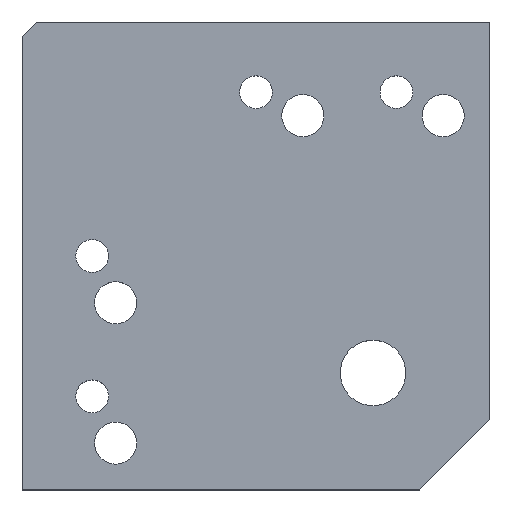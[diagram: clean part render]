
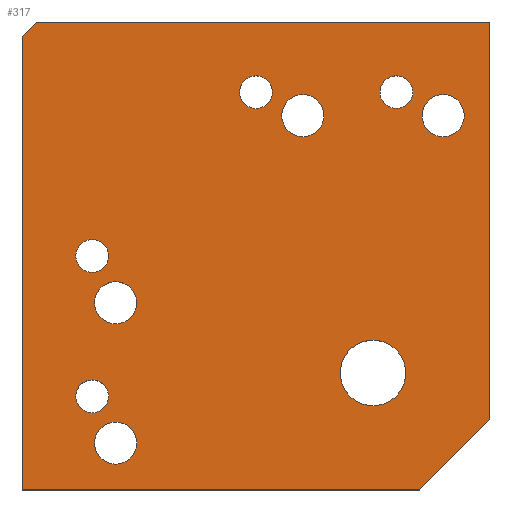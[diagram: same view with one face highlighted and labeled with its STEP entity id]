
A CAD part, top view. The second image highlights one B-rep face of the part: STEP entity #317.
In plain terms, the highlighted planar face has unit normal (0, 0, 1).
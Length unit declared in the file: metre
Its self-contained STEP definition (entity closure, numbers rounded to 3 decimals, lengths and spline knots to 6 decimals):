
#32=FACE_BOUND('',#101,.T.);
#33=FACE_BOUND('',#102,.T.);
#34=FACE_BOUND('',#103,.T.);
#35=FACE_BOUND('',#104,.T.);
#36=FACE_BOUND('',#105,.T.);
#37=FACE_BOUND('',#106,.T.);
#38=FACE_BOUND('',#107,.T.);
#39=FACE_BOUND('',#108,.T.);
#40=FACE_BOUND('',#109,.T.);
#59=CIRCLE('',#347,0.007);
#60=CIRCLE('',#348,0.0045);
#61=CIRCLE('',#349,0.0045);
#62=CIRCLE('',#350,0.0045);
#63=CIRCLE('',#351,0.0045);
#64=CIRCLE('',#352,0.0035);
#65=CIRCLE('',#353,0.0035);
#66=CIRCLE('',#354,0.0035);
#67=CIRCLE('',#355,0.0035);
#74=FACE_OUTER_BOUND('',#100,.T.);
#100=EDGE_LOOP('',(#266,#267,#268,#269,#270,#271));
#101=EDGE_LOOP('',(#272));
#102=EDGE_LOOP('',(#273));
#103=EDGE_LOOP('',(#274));
#104=EDGE_LOOP('',(#275));
#105=EDGE_LOOP('',(#276));
#106=EDGE_LOOP('',(#277));
#107=EDGE_LOOP('',(#278));
#108=EDGE_LOOP('',(#279));
#109=EDGE_LOOP('',(#280));
#129=LINE('',#460,#147);
#135=LINE('',#473,#153);
#137=LINE('',#477,#155);
#140=LINE('',#483,#158);
#143=LINE('',#488,#161);
#146=LINE('',#511,#164);
#147=VECTOR('',#370,0.085);
#153=VECTOR('',#378,0.085);
#155=VECTOR('',#382,0.097);
#158=VECTOR('',#387,0.004243);
#161=VECTOR('',#392,0.097);
#164=VECTOR('',#417,0.021213);
#165=VERTEX_POINT('',#458);
#166=VERTEX_POINT('',#459);
#171=VERTEX_POINT('',#470);
#172=VERTEX_POINT('',#472);
#173=VERTEX_POINT('',#476);
#175=VERTEX_POINT('',#482);
#186=VERTEX_POINT('',#512);
#187=VERTEX_POINT('',#514);
#188=VERTEX_POINT('',#516);
#189=VERTEX_POINT('',#518);
#190=VERTEX_POINT('',#520);
#191=VERTEX_POINT('',#522);
#192=VERTEX_POINT('',#524);
#193=VERTEX_POINT('',#526);
#194=VERTEX_POINT('',#528);
#195=EDGE_CURVE('',#165,#166,#129,.T.);
#201=EDGE_CURVE('',#172,#171,#135,.T.);
#203=EDGE_CURVE('',#173,#172,#137,.T.);
#206=EDGE_CURVE('',#175,#173,#140,.T.);
#209=EDGE_CURVE('',#166,#175,#143,.T.);
#221=EDGE_CURVE('',#171,#165,#146,.F.);
#222=EDGE_CURVE('',#186,#186,#59,.T.);
#223=EDGE_CURVE('',#187,#187,#60,.T.);
#224=EDGE_CURVE('',#188,#188,#61,.T.);
#225=EDGE_CURVE('',#189,#189,#62,.T.);
#226=EDGE_CURVE('',#190,#190,#63,.T.);
#227=EDGE_CURVE('',#191,#191,#64,.T.);
#228=EDGE_CURVE('',#192,#192,#65,.T.);
#229=EDGE_CURVE('',#193,#193,#66,.T.);
#230=EDGE_CURVE('',#194,#194,#67,.T.);
#266=ORIENTED_EDGE('',*,*,#201,.T.);
#267=ORIENTED_EDGE('',*,*,#221,.T.);
#268=ORIENTED_EDGE('',*,*,#195,.T.);
#269=ORIENTED_EDGE('',*,*,#209,.T.);
#270=ORIENTED_EDGE('',*,*,#206,.T.);
#271=ORIENTED_EDGE('',*,*,#203,.T.);
#272=ORIENTED_EDGE('',*,*,#222,.F.);
#273=ORIENTED_EDGE('',*,*,#223,.F.);
#274=ORIENTED_EDGE('',*,*,#224,.F.);
#275=ORIENTED_EDGE('',*,*,#225,.F.);
#276=ORIENTED_EDGE('',*,*,#226,.F.);
#277=ORIENTED_EDGE('',*,*,#227,.F.);
#278=ORIENTED_EDGE('',*,*,#228,.F.);
#279=ORIENTED_EDGE('',*,*,#229,.F.);
#280=ORIENTED_EDGE('',*,*,#230,.F.);
#309=PLANE('',#346);
#317=ADVANCED_FACE('',(#74,#32,#33,#34,#35,#36,#37,#38,#39,#40),#309,.T.);
#346=AXIS2_PLACEMENT_3D('',#510,#415,#416);
#347=AXIS2_PLACEMENT_3D('',#513,#418,#419);
#348=AXIS2_PLACEMENT_3D('',#515,#420,#421);
#349=AXIS2_PLACEMENT_3D('',#517,#422,#423);
#350=AXIS2_PLACEMENT_3D('',#519,#424,#425);
#351=AXIS2_PLACEMENT_3D('',#521,#426,#427);
#352=AXIS2_PLACEMENT_3D('',#523,#428,#429);
#353=AXIS2_PLACEMENT_3D('',#525,#430,#431);
#354=AXIS2_PLACEMENT_3D('',#527,#432,#433);
#355=AXIS2_PLACEMENT_3D('',#529,#434,#435);
#370=DIRECTION('',(0.,1.,0.));
#378=DIRECTION('',(1.,0.,0.));
#382=DIRECTION('',(0.,-1.,0.));
#387=DIRECTION('',(-0.707,-0.707,0.));
#392=DIRECTION('',(-1.,0.,0.));
#415=DIRECTION('center_axis',(0.,0.,1.));
#416=DIRECTION('ref_axis',(1.,0.,0.));
#417=DIRECTION('',(-0.707,-0.707,0.));
#418=DIRECTION('center_axis',(0.,0.,1.));
#419=DIRECTION('ref_axis',(1.,0.,0.));
#420=DIRECTION('center_axis',(0.,0.,1.));
#421=DIRECTION('ref_axis',(1.,0.,0.));
#422=DIRECTION('center_axis',(0.,0.,1.));
#423=DIRECTION('ref_axis',(1.,0.,0.));
#424=DIRECTION('center_axis',(0.,0.,1.));
#425=DIRECTION('ref_axis',(1.,0.,0.));
#426=DIRECTION('center_axis',(0.,0.,1.));
#427=DIRECTION('ref_axis',(1.,0.,0.));
#428=DIRECTION('center_axis',(0.,0.,1.));
#429=DIRECTION('ref_axis',(1.,0.,0.));
#430=DIRECTION('center_axis',(0.,0.,1.));
#431=DIRECTION('ref_axis',(1.,0.,0.));
#432=DIRECTION('center_axis',(0.,0.,1.));
#433=DIRECTION('ref_axis',(1.,0.,0.));
#434=DIRECTION('center_axis',(0.,0.,1.));
#435=DIRECTION('ref_axis',(1.,0.,0.));
#458=CARTESIAN_POINT('',(0.05,-0.035,0.));
#459=CARTESIAN_POINT('',(0.05,0.05,0.));
#460=CARTESIAN_POINT('',(0.05,-0.035,0.));
#470=CARTESIAN_POINT('',(0.035,-0.05,0.));
#472=CARTESIAN_POINT('',(-0.05,-0.05,0.));
#473=CARTESIAN_POINT('',(-0.05,-0.05,0.));
#476=CARTESIAN_POINT('',(-0.05,0.047,0.));
#477=CARTESIAN_POINT('',(-0.05,0.047,0.));
#482=CARTESIAN_POINT('',(-0.047,0.05,0.));
#483=CARTESIAN_POINT('',(-0.047,0.05,0.));
#488=CARTESIAN_POINT('',(0.05,0.05,0.));
#510=CARTESIAN_POINT('Origin',(0.,0.,0.));
#511=CARTESIAN_POINT('',(0.05,-0.035,0.));
#512=CARTESIAN_POINT('',(0.032,-0.025,0.));
#513=CARTESIAN_POINT('Origin',(0.025,-0.025,0.));
#514=CARTESIAN_POINT('',(0.0145,0.03,0.));
#515=CARTESIAN_POINT('Origin',(0.01,0.03,0.));
#516=CARTESIAN_POINT('',(0.0445,0.03,0.));
#517=CARTESIAN_POINT('Origin',(0.04,0.03,0.));
#518=CARTESIAN_POINT('',(-0.0255,-0.01,0.));
#519=CARTESIAN_POINT('Origin',(-0.03,-0.01,0.));
#520=CARTESIAN_POINT('',(-0.0255,-0.04,0.));
#521=CARTESIAN_POINT('Origin',(-0.03,-0.04,0.));
#522=CARTESIAN_POINT('',(0.0035,0.035,0.));
#523=CARTESIAN_POINT('Origin',(0.,0.035,0.));
#524=CARTESIAN_POINT('',(0.0335,0.035,0.));
#525=CARTESIAN_POINT('Origin',(0.03,0.035,0.));
#526=CARTESIAN_POINT('',(-0.0315,0.,0.));
#527=CARTESIAN_POINT('Origin',(-0.035,0.,0.));
#528=CARTESIAN_POINT('',(-0.0315,-0.03,0.));
#529=CARTESIAN_POINT('Origin',(-0.035,-0.03,0.));
